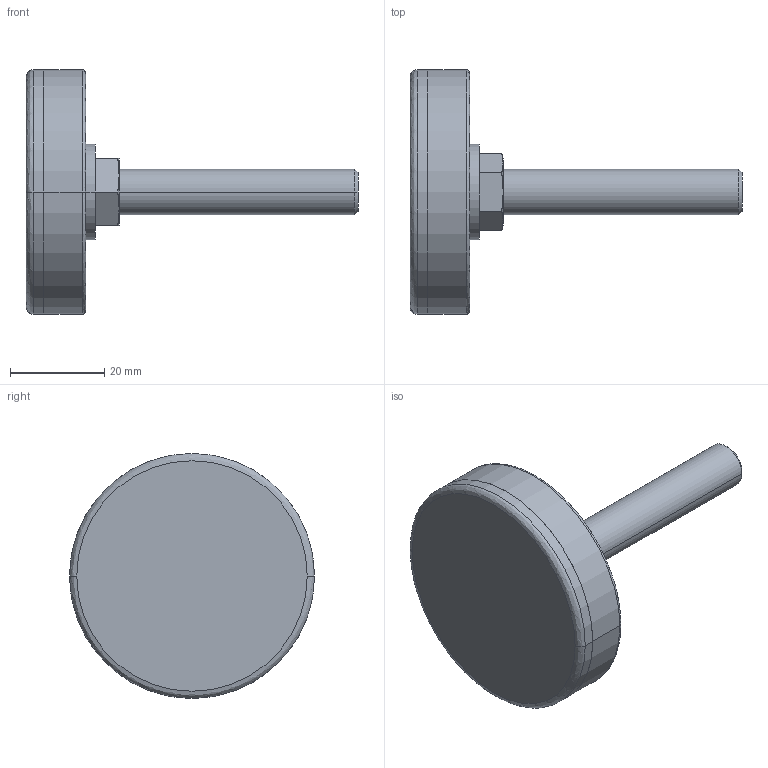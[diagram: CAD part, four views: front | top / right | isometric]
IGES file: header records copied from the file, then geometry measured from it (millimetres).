
Start section:  PTC IGES file: fsn304s-part.igs
Global section: file name: fsn304s-part.igs; native system: Pro/ENGINEER by Parametric Technology Corporation; preprocessor: 2002350; author: chant; organization: Unknown; date: 070618.103827; units: inch
Bounding box: 70.61 x 52.07 x 52.07 mm (x, y, z)
Surface area: 8323.1 mm2 (no closed solid volume)
Topology: 0 solids, 0 shells, 35 faces, 203 edges, 249 vertices
Faces by surface type: revolution 22, bspline 13
